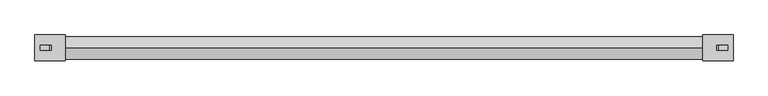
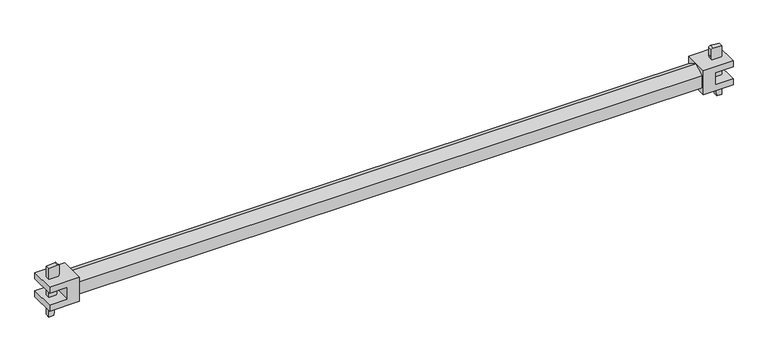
"""IFC4 building model written with IfcOpenShell, lengths in millimetres: proxy geometry, AK_アルバトロスＡＫ布材L=1200_軽 : AK_アルバトロスＡＫ布材L=1200_軽."""

from ifc_helpers import new_model, si_unit, point, frame, frame_2d, origin, place, context, project, spatial, polyline, circle_curve, trimmed, segment, composite_curve, outline, extrude, source, transform, mapped, element, save


def generic_models_03ab8a06(model_context):
    return source(origin(), model_context, "Body", "SweptSolid", [
        extrude(outline(polyline([(-10.75, 21.0591948), (-21.5, 21.0591948), (-21.5, 71.4999948), (21.5, 71.4999948), (21.5, 21.0591948), (10.75, 21.0591948), (10.75, 51.2999948), (-10.75, 51.2999948), (-10.75, 21.0591948)])), frame((0.0, -21.5, 0.0), z_axis=(0.0, 1.0, 0.0), x_axis=(0.0, 0.0, 1.0)), (0.0, 0.0, 1.0), 43.0),
        extrude(outline(composite_curve([segment(trimmed(circle_curve(frame_2d((39.0692, 44.7999948)), 3.0), [point((39.0692, 47.7999948))], [point((42.0590201, 44.5530624))], False, "CARTESIAN"), True, "CONTINUOUS"), segment(polyline([(42.0590201, 44.5530624), (40.7682926, 29.7999948), (-45.68165, 29.7999948), (-45.68165, 38.5388196), (27.3200065, 47.7999948), (39.0692, 47.7999948)]), True, "CONTINUOUS")], self_intersect=False)), frame((0.0, -4.0, 0.0), z_axis=(0.0, 1.0, 0.0), x_axis=(0.0, 0.0, 1.0)), (0.0, 0.0, 1.0), 8.0),
        extrude(outline(polyline([(-10.75, 1178.9408448), (-10.75, 1148.7000448), (10.75, 1148.7000448), (10.75, 1178.9408448), (21.5, 1178.9408448), (21.5, 1128.5000448), (-21.5, 1128.5000448), (-21.5, 1178.9408448), (-10.75, 1178.9408448)])), frame((0.0, -21.5, 0.0), z_axis=(0.0, 1.0, 0.0), x_axis=(0.0, 0.0, 1.0)), (0.0, 0.0, 1.0), 43.0),
        extrude(outline(composite_curve([segment(polyline([(39.0692, 1152.2000448), (27.3200065, 1152.2000448), (-45.68165, 1161.4612201), (-45.68165, 1170.2000448), (40.7682926, 1170.2000448), (42.0590201, 1155.4469772)]), True, "CONTINUOUS"), segment(trimmed(circle_curve(frame_2d((39.0692, 1155.2000448)), 3.0), [point((42.0590201, 1155.4469772))], [point((39.0692, 1152.2000448))], False, "CARTESIAN"), True, "CONTINUOUS")], self_intersect=False)), frame((0.0, -4.0, 0.0), z_axis=(0.0, 1.0, 0.0), x_axis=(0.0, 0.0, 1.0)), (0.0, 0.0, 1.0), 8.0),
        extrude(outline(polyline([(-18.4896424, 10.675), (0.0, 21.35), (18.4896424, 10.675), (18.4896424, -10.675), (0.0, -21.35), (-18.4896424, -10.675), (-18.4896424, 10.675)])), frame((71.4999948, 0.0, 0.0), z_axis=(1.0, 0.0, 0.0), x_axis=(0.0, 1.0, 0.0)), (0.0, 0.0, 1.0), 1057.00005),
    ])


if __name__ == "__main__":
    model = new_model("IFC4")
    model_context = context("Model", 3, world=origin())
    ifc_project = project(units=[si_unit("LENGTHUNIT", "METRE", prefix="MILLI")], contexts=[model_context])
    site = spatial("IfcSite", under=ifc_project)
    building = spatial("IfcBuilding", under=site)
    placement = place(None, origin())
    generic_models_shape = generic_models_03ab8a06(model_context)
    element("IfcBuildingElementProxy", 1, Name="AK_アルバトロスＡＫ布材L=1200_軽 : AK_アルバトロスＡＫ布材L=1200_軽", ObjectType="AK_アルバトロスＡＫ布材L=1200_軽 : AK_アルバトロスＡＫ布材L=1200_軽", at=placement, inside=building, context=model_context, shape_type="MappedRepresentation", body=[
        mapped(generic_models_shape, transform((0.0, 0.0, 0.0), x_axis=(1.0, 0.0, 0.0), y_axis=(0.0, 1.0, 0.0), z_axis=(0.0, 0.0, 1.0))),
    ])
    save(model, "model.ifc")
